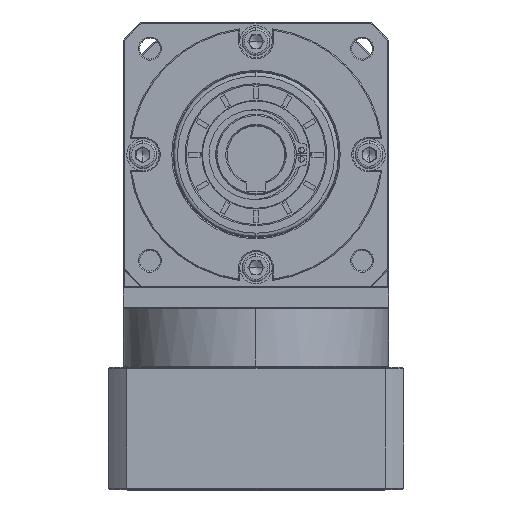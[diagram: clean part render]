
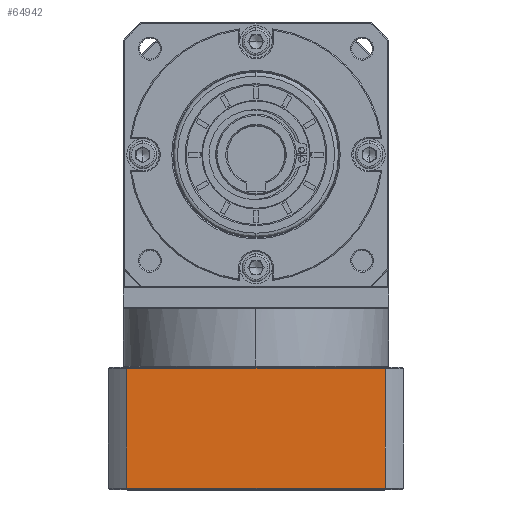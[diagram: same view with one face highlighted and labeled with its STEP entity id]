
A CAD part, top view. The second image highlights one B-rep face of the part: STEP entity #64942.
In plain terms, the highlighted planar face has unit normal (0, 0, 1).
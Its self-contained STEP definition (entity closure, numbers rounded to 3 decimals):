
#2670 = EDGE_CURVE ( 'NONE', #38026, #126705, #29719, .T. ) ;
#7275 = AXIS2_PLACEMENT_3D ( 'NONE', #118230, #40458, #131260 ) ;
#9788 = FACE_OUTER_BOUND ( 'NONE', #42346, .T. ) ;
#17049 = DIRECTION ( 'NONE',  ( 0., -1., 0. ) ) ;
#20859 = ORIENTED_EDGE ( 'NONE', *, *, #59044, .F. ) ;
#29719 = LINE ( 'NONE', #30608, #98851 ) ;
#30608 = CARTESIAN_POINT ( 'NONE',  ( -153.23, 99.535, 58.391 ) ) ;
#33099 = LINE ( 'NONE', #99436, #94010 ) ;
#38026 = VERTEX_POINT ( 'NONE', #156056 ) ;
#38558 = CARTESIAN_POINT ( 'NONE',  ( -273.167, -195.785, 58.391 ) ) ;
#40458 = DIRECTION ( 'NONE',  ( 0., 0., -1. ) ) ;
#42346 = EDGE_LOOP ( 'NONE', ( #86424, #61429, #58763, #20859 ) ) ;
#50504 = DIRECTION ( 'NONE',  ( -1., 0., 0. ) ) ;
#52781 = CARTESIAN_POINT ( 'NONE',  ( -153.23, -195.785, 58.391 ) ) ;
#52967 = PLANE ( 'NONE',  #7275 ) ;
#56039 = VECTOR ( 'NONE', #156952, 1000. ) ;
#58763 = ORIENTED_EDGE ( 'NONE', *, *, #99122, .F. ) ;
#59044 = EDGE_CURVE ( 'NONE', #126705, #102235, #123213, .T. ) ;
#61429 = ORIENTED_EDGE ( 'NONE', *, *, #161534, .F. ) ;
#63737 = CARTESIAN_POINT ( 'NONE',  ( -265.105, -195.785, 58.391 ) ) ;
#64269 = VERTEX_POINT ( 'NONE', #66295 ) ;
#64942 = ADVANCED_FACE ( 'NONE', ( #9788 ), #52967, .F. ) ;
#66195 = CARTESIAN_POINT ( 'NONE',  ( -265.105, -196.285, 58.391 ) ) ;
#66295 = CARTESIAN_POINT ( 'NONE',  ( -265.105, -143.785, 58.391 ) ) ;
#86424 = ORIENTED_EDGE ( 'NONE', *, *, #2670, .F. ) ;
#94010 = VECTOR ( 'NONE', #112498, 1000. ) ;
#98851 = VECTOR ( 'NONE', #17049, 1000. ) ;
#99122 = EDGE_CURVE ( 'NONE', #102235, #64269, #159576, .T. ) ;
#99436 = CARTESIAN_POINT ( 'NONE',  ( -273.167, -143.785, 58.391 ) ) ;
#102235 = VERTEX_POINT ( 'NONE', #63737 ) ;
#112498 = DIRECTION ( 'NONE',  ( 1., 0., 0. ) ) ;
#118230 = CARTESIAN_POINT ( 'NONE',  ( -273.167, -196.285, 58.391 ) ) ;
#123213 = LINE ( 'NONE', #38558, #157706 ) ;
#126705 = VERTEX_POINT ( 'NONE', #52781 ) ;
#131260 = DIRECTION ( 'NONE',  ( -1., 0., 0. ) ) ;
#156056 = CARTESIAN_POINT ( 'NONE',  ( -153.23, -143.785, 58.391 ) ) ;
#156952 = DIRECTION ( 'NONE',  ( 0., 1., 0. ) ) ;
#157706 = VECTOR ( 'NONE', #50504, 1000. ) ;
#159576 = LINE ( 'NONE', #66195, #56039 ) ;
#161534 = EDGE_CURVE ( 'NONE', #64269, #38026, #33099, .T. ) ;
